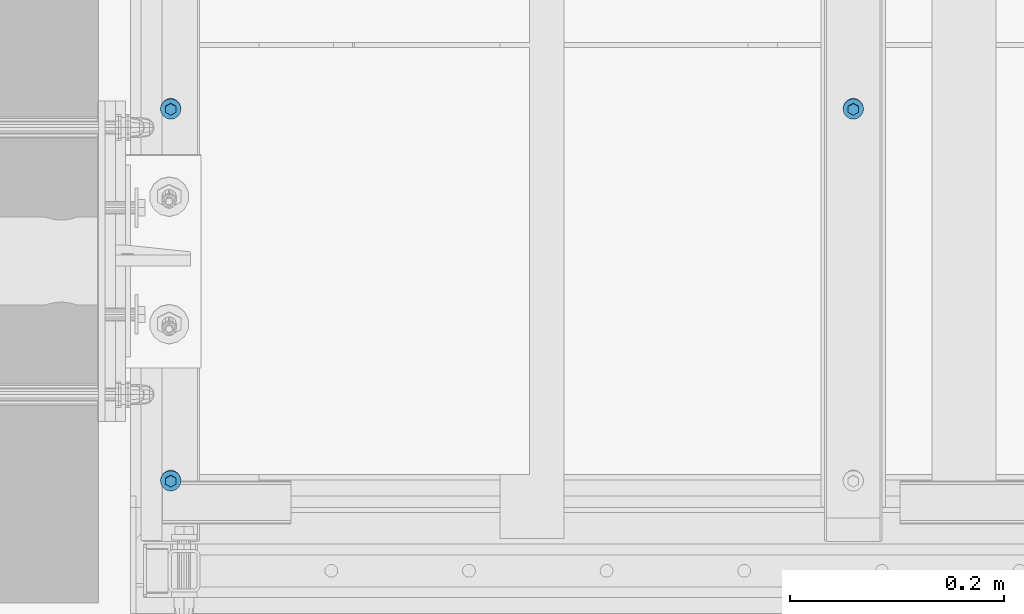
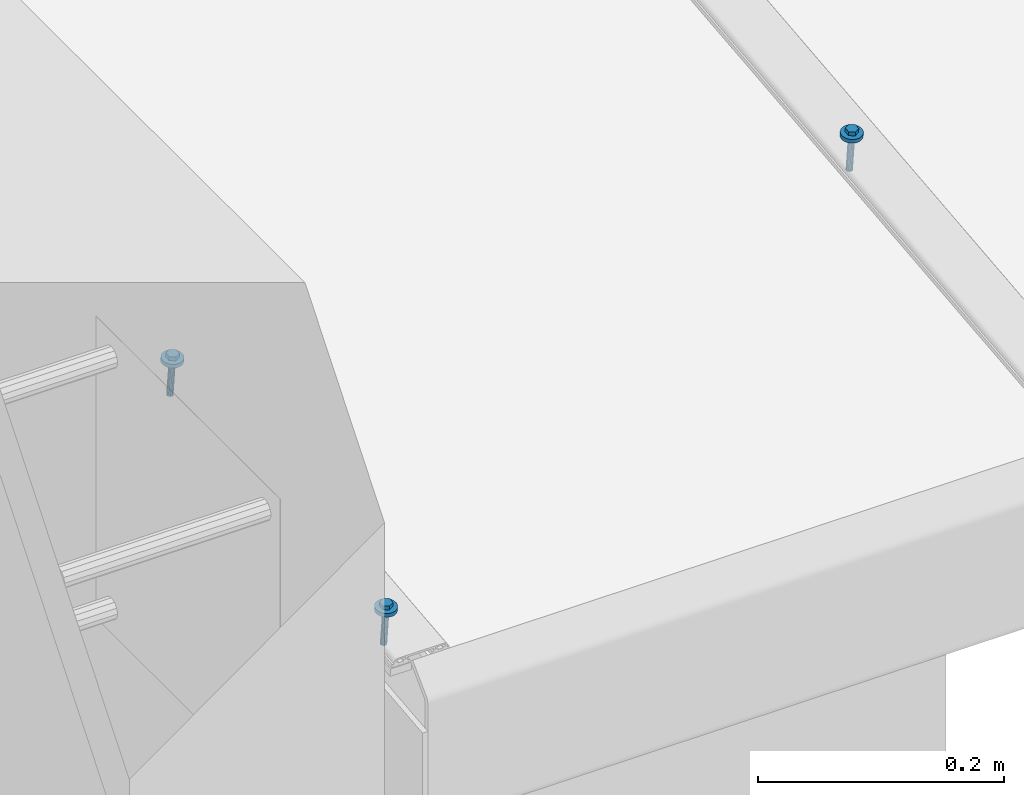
# One storey, part 69 of 162: 3 mechanical fasteners.
"""IFC2X3 building model written with IfcOpenShell, lengths in millimetres."""

import ifcopenshell
import ifcopenshell.guid

model = None  # the IFC model being written
_history = None  # IfcOwnerHistory: only IFC2X3 demands one
_inside = {}  # id of a spatial element -> (the spatial element, [elements in it])
_under = {}  # id of a project, library or spatial element -> (it, [spatial elements below it])
_declared = {}  # id of a project -> (the project, [libraries it declares])
_typed = {}  # id of a type object -> (the type object, [elements of that type])
_made_of = {}  # id of a material, layer set ... -> (it, [elements and type objects made of it])


def new_model(schema):
    """Start an empty IFC model of exactly this schema.

    Asked for "IFC4X3", IfcOpenShell would pick the latest addendum, in which some entities
    have other attributes; the version numbers below select the first issue.
    IFC2X3 requires an IfcOwnerHistory on every rooted entity: one is made here for all.
    """
    global model, _history
    if schema == "IFC4X3":
        model = ifcopenshell.file(schema_version=(4, 3, 0, 0))
    else:
        model = ifcopenshell.file(schema=schema)
    _inside.clear()
    _under.clear()
    _declared.clear()
    _typed.clear()
    _made_of.clear()
    _history = None
    if model.schema == "IFC2X3":
        org = make("IfcOrganization", Name="unknown")
        user = make(
            "IfcPersonAndOrganization",
            ThePerson=make("IfcPerson", FamilyName="unknown"),
            TheOrganization=org,
        )
        app = make(
            "IfcApplication",
            ApplicationDeveloper=org,
            Version="unknown",
            ApplicationFullName="unknown",
            ApplicationIdentifier="unknown",
        )
        _history = make(
            "IfcOwnerHistory",
            OwningUser=user,
            OwningApplication=app,
            ChangeAction="ADDED",
            CreationDate=0,
        )
    return model


def make(cls, **values):
    """One entity of the class cls with the attributes given. An attribute that is None is left unset."""
    return model.create_entity(
        cls, **{name: value for name, value in values.items() if value is not None}
    )


def entity(cls, *values):
    """Any entity or typed value of the class cls, its attributes in the order of the schema. None: left unset."""
    e = model.create_entity(cls)
    for i, value in enumerate(values):
        if value is not None:
            e[i] = value
    return e


def rooted(cls, **values):
    """An entity with a GlobalId (a new one), such as an element, a storey or a relation."""
    return make(cls, GlobalId=ifcopenshell.guid.new(), OwnerHistory=_history, **values)


def si_unit(unit_type, name, prefix=None):
    """IfcSIUnit, for example si_unit("LENGTHUNIT", "METRE", prefix="MILLI")."""
    return make("IfcSIUnit", UnitType=unit_type, Prefix=prefix, Name=name)


def converted_unit(unit_type, name, factor, base, dimensions=None, offset=None):
    """IfcConversionBasedUnit, such as the inch: factor (a typed value) times the base unit."""
    return make(
        "IfcConversionBasedUnit"
        if offset is None
        else "IfcConversionBasedUnitWithOffset",
        ConversionOffset=offset,
        Dimensions=None
        if dimensions is None
        else entity("IfcDimensionalExponents", *dimensions),
        UnitType=unit_type,
        Name=name,
        ConversionFactor=make(
            "IfcMeasureWithUnit", ValueComponent=factor, UnitComponent=base
        ),
    )


def assignment(units):
    """IfcUnitAssignment: the units of a project."""
    return None if units is None else make("IfcUnitAssignment", Units=units)


def point(xyz):
    """IfcCartesianPoint."""
    return None if xyz is None else make("IfcCartesianPoint", Coordinates=xyz)


def direction(xyz):
    """IfcDirection."""
    return None if xyz is None else make("IfcDirection", DirectionRatios=xyz)


def frame(location, z_axis=None, x_axis=None):
    """IfcAxis2Placement3D, a coordinate frame: its origin and axes. An axis left out is left unset."""
    return make(
        "IfcAxis2Placement3D",
        Location=point(location),
        Axis=direction(z_axis),
        RefDirection=direction(x_axis),
    )


def origin_with_axes():
    """The frame at (0, 0, 0) with the z axis (0, 0, 1) and the x axis (1, 0, 0) written out."""
    return frame((0.0, 0.0, 0.0), z_axis=(0.0, 0.0, 1.0), x_axis=(1.0, 0.0, 0.0))


def place(relative_to, where):
    """IfcLocalPlacement: puts the frame where relative to a parent placement (None: the world)."""
    return make(
        "IfcLocalPlacement", PlacementRelTo=relative_to, RelativePlacement=where
    )


def context(
    kind, dimensions, precision=None, world=None, true_north=None, identifier=None
):
    """IfcGeometricRepresentationContext, for example the 3D "Model" context."""
    return make(
        "IfcGeometricRepresentationContext",
        ContextIdentifier=identifier,
        ContextType=kind,
        CoordinateSpaceDimension=dimensions,
        Precision=precision,
        WorldCoordinateSystem=world,
        TrueNorth=true_north,
    )


def project(units=None, contexts=None):
    """IfcProject with its units and contexts."""
    return rooted(
        "IfcProject",
        Name="project",
        RepresentationContexts=contexts,
        UnitsInContext=assignment(units),
    )


def spatial(cls, under=None, at=None, **own):
    """A site, building, storey or space (cls), placed at a placement, below another one or the project."""
    s = rooted(cls, ObjectPlacement=at, **own)
    if under is not None:
        _under.setdefault(under.id(), (under, []))[1].append(s)
    return s


def faces_of(points, faces, orient=None, outer=None):
    """IfcFace entities. A face is a list of loops; a loop is a list of indices into points, from 0.

    orient and outer hold one flag for each loop. By default every Orientation is true, the
    first loop of a face is its IfcFaceOuterBound and the others are IfcFaceBound.
    """
    made = []
    for i, loops in enumerate(faces):
        bounds = []
        for j, loop in enumerate(loops):
            is_outer = j == 0 if outer is None else outer[i][j]
            bounds.append(
                make(
                    "IfcFaceOuterBound" if is_outer else "IfcFaceBound",
                    Bound=make("IfcPolyLoop", Polygon=[points[k] for k in loop]),
                    Orientation=True if orient is None else orient[i][j],
                )
            )
        made.append(make("IfcFace", Bounds=bounds))
    return made


def faceted_brep(points, faces, orient=None, outer=None, voids=None):
    """IfcFacetedBrep: a solid bounded by flat faces; with voids (closed shells), ...WithVoids."""
    shared = [point(p) for p in points]
    hull = make("IfcClosedShell", CfsFaces=faces_of(shared, faces, orient, outer))
    if voids is None:
        return make("IfcFacetedBrep", Outer=hull)
    return make(
        "IfcFacetedBrepWithVoids",
        Outer=hull,
        Voids=[
            make(cls, CfsFaces=faces_of(shared, fs, o, b)) for cls, fs, o, b in voids
        ],
    )


def shape(context_of_items, identifier, shape_type, items):
    """IfcShapeRepresentation: the items that make up one representation, for example the "Body"."""
    return make(
        "IfcShapeRepresentation",
        ContextOfItems=context_of_items,
        RepresentationIdentifier=identifier,
        RepresentationType=shape_type,
        Items=items,
    )


def made_of(thing, what):
    """Note that an element or type object is made of a material, layer set ...; save() writes the relation."""
    if what is not None:
        _made_of.setdefault(what.id(), (what, []))[1].append(thing)
    return thing


def element(
    cls,
    number,
    at=None,
    inside=None,
    cuts=None,
    type_object=None,
    material=None,
    context=None,
    identifier="Body",
    shape_type=None,
    held_by="IfcProductDefinitionShape",
    body=None,
    shapes=None,
    **own,
):
    """One element of the class cls, such as IfcWall. Its Tag is "e" and its number.

    at: its placement. inside: the storey or other place that contains it. cuts: it is an
    opening in that element (IfcRelVoidsElement). A single representation is given by context,
    identifier, shape_type and body (its items); several are given by shapes. held_by: the class
    of the entity that holds the representations. save() writes the other relations.
    """
    e = rooted(cls, Tag="e%d" % number, ObjectPlacement=at, **own)
    if body is not None:
        shapes = [shape(context, identifier, shape_type, body)]
    if shapes is not None:
        e.Representation = make(held_by, Representations=shapes)
    if inside is not None:
        _inside.setdefault(inside.id(), (inside, []))[1].append(e)
    if cuts is not None:
        rooted(
            "IfcRelVoidsElement", RelatingBuildingElement=cuts, RelatedOpeningElement=e
        )
    if type_object is not None:
        _typed.setdefault(type_object.id(), (type_object, []))[1].append(e)
    return made_of(e, material)


def aggregate(whole, parts):
    """IfcRelAggregates: a whole, such as a stair, and the parts it consists of."""
    return rooted("IfcRelAggregates", RelatingObject=whole, RelatedObjects=parts)


def save(model, path):
    """Write the relations noted so far, then the file.

    IfcRelAggregates (storeys below a building ...), IfcRelContainedInSpatialStructure (elements
    in a storey), IfcRelDefinesByType, IfcRelAssociatesMaterial and IfcRelDeclares: one each for
    every whole, place, type object, material and project.
    """
    for whole, parts in _under.values():
        aggregate(whole, parts)
    for where, things in _inside.values():
        rooted(
            "IfcRelContainedInSpatialStructure",
            RelatedElements=things,
            RelatingStructure=where,
        )
    for kind, things in _typed.values():
        rooted("IfcRelDefinesByType", RelatedObjects=things, RelatingType=kind)
    for what, things in _made_of.values():
        rooted("IfcRelAssociatesMaterial", RelatedObjects=things, RelatingMaterial=what)
    for by, libraries in _declared.values():
        rooted("IfcRelDeclares", RelatingContext=by, RelatedDefinitions=libraries)
    model.write(path)


model = new_model("IFC2X3")

# Units and contexts
model_context = context("Model", 3, precision=1e-09, world=origin_with_axes())
ifc_project = project(units=[si_unit("LENGTHUNIT", "METRE", prefix="MILLI"), si_unit("AREAUNIT", "SQUARE_METRE"), si_unit("VOLUMEUNIT", "CUBIC_METRE"), converted_unit("PLANEANGLEUNIT", "DEGREE", entity("IfcPlaneAngleMeasure", 0.01745329), si_unit("PLANEANGLEUNIT", "RADIAN"), dimensions=[0, 0, 0, 0, 0, 0, 0])], contexts=[model_context])

# Site, building, storey
site_placement = place(None, origin_with_axes())
site = spatial("IfcSite", under=ifc_project, at=site_placement, Name="Hermannstra?e 1a, 60318 Frankfurt", CompositionType="ELEMENT")
building_placement = place(site_placement, origin_with_axes())
building = spatial("IfcBuilding", under=site, at=building_placement, Name="Struktur 1", CompositionType="ELEMENT")
storey_placement = place(building_placement, origin_with_axes())
storey = spatial("IfcBuildingStorey", under=building, at=storey_placement, Name="Default Storey", CompositionType="ELEMENT", Elevation=0.0)

# Mechanical fasteners
mechanical_fastener_1_placement = place(None, origin_with_axes())
element("IfcMechanicalFastener", 1, at=mechanical_fastener_1_placement, inside=storey, ObjectType="-", NominalDiameter=6.0, NominalLength=40.0, context=model_context, shape_type="Brep", body=[
    faceted_brep([(3220.309364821, 1947.952940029, 17450.481034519), (3220.309364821, 1948.371053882, 17446.502946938), (3220.491904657, 1946.527848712, 17446.309218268), (3220.491904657, 1946.109734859, 17450.28730585), (3221.032509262, 1944.755476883, 17446.122934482), (3221.032509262, 1944.33736303, 17450.101022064), (3221.910403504, 1943.122049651, 17445.951254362), (3221.910403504, 1942.703935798, 17449.929341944), (3223.0918504, 1941.690338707, 17445.800775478), (3223.0918504, 1941.272224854, 17449.77886306), (3224.531447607, 1940.515363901, 17445.67728065), (3224.531447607, 1940.097250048, 17449.655368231), (3226.173872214, 1939.642278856, 17445.585515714), (3226.173872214, 1939.224165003, 17449.563603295), (3227.956006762, 1939.10463574, 17445.529007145), (3227.956006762, 1938.686521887, 17449.507094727), (3229.809364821, 1938.923095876, 17445.509926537), (3229.809364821, 1938.504982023, 17449.488014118), (3231.66272288, 1939.10463574, 17445.529007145), (3231.66272288, 1938.686521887, 17449.507094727), (3233.444857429, 1939.642278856, 17445.585515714), (3233.444857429, 1939.224165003, 17449.563603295), (3235.087282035, 1940.515363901, 17445.67728065), (3235.087282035, 1940.097250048, 17449.655368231), (3236.526879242, 1941.690338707, 17445.800775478), (3236.526879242, 1941.272224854, 17449.77886306), (3237.708326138, 1943.122049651, 17445.951254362), (3237.708326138, 1942.703935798, 17449.929341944), (3238.58622038, 1944.755476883, 17446.122934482), (3238.58622038, 1944.33736303, 17450.101022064), (3239.126824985, 1946.527848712, 17446.309218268), (3239.126824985, 1946.109734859, 17450.28730585), (3239.309364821, 1948.371053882, 17446.502946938), (3239.309364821, 1947.952940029, 17450.481034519), (3239.126824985, 1950.214259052, 17446.696675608), (3239.126824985, 1949.796145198, 17450.674763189), (3238.58622038, 1951.98663088, 17446.882959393), (3238.58622038, 1951.568517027, 17450.861046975), (3237.708326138, 1953.620058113, 17447.054639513), (3237.708326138, 1953.20194426, 17451.032727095), (3236.526879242, 1955.051769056, 17447.205118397), (3236.526879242, 1954.633655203, 17451.183205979), (3235.087282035, 1956.226743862, 17447.328613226), (3235.087282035, 1955.808630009, 17451.306700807), (3233.444857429, 1957.099828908, 17447.420378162), (3233.444857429, 1956.681715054, 17451.398465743), (3231.66272288, 1957.637472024, 17447.47688673), (3231.66272288, 1957.219358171, 17451.454974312), (3229.809364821, 1957.819011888, 17447.495967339), (3229.809364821, 1957.400898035, 17451.47405492), (3227.956006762, 1957.637472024, 17447.47688673), (3227.956006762, 1957.219358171, 17451.454974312), (3226.173872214, 1957.099828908, 17447.420378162), (3226.173872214, 1956.681715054, 17451.398465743), (3224.531447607, 1956.226743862, 17447.328613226), (3224.531447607, 1955.808630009, 17451.306700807), (3223.0918504, 1955.051769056, 17447.205118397), (3223.0918504, 1954.633655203, 17451.183205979), (3221.910403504, 1953.620058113, 17447.054639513), (3221.910403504, 1953.20194426, 17451.032727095), (3221.032509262, 1951.98663088, 17446.882959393), (3221.032509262, 1951.568517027, 17450.861046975), (3220.491904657, 1950.214259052, 17446.696675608), (3220.491904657, 1949.796145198, 17450.674763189)], [[[0, 1, 2, 3]], [[3, 2, 4, 5]], [[5, 4, 6, 7]], [[7, 6, 8, 9]], [[9, 8, 10, 11]], [[11, 10, 12, 13]], [[13, 12, 14, 15]], [[15, 14, 16, 17]], [[17, 16, 18, 19]], [[19, 18, 20, 21]], [[21, 20, 22, 23]], [[23, 22, 24, 25]], [[25, 24, 26, 27]], [[27, 26, 28, 29]], [[29, 28, 30, 31]], [[31, 30, 32, 33]], [[33, 32, 34, 35]], [[35, 34, 36, 37]], [[37, 36, 38, 39]], [[39, 38, 40, 41]], [[41, 40, 42, 43]], [[43, 42, 44, 45]], [[45, 44, 46, 47]], [[47, 46, 48, 49]], [[49, 48, 50, 51]], [[51, 50, 52, 53]], [[53, 52, 54, 55]], [[55, 54, 56, 57]], [[57, 56, 58, 59]], [[59, 58, 60, 61]], [[61, 60, 62, 63]], [[63, 62, 1, 0]], [[0, 3, 5, 7, 9, 11, 13, 15, 17, 19, 21, 23, 25, 27, 29, 31, 33, 35, 37, 39, 41, 43, 45, 47, 49, 51, 53, 55, 57, 59, 61, 63]], [[1, 62, 60, 58, 56, 54, 52, 50, 48, 46, 44, 42, 40, 38, 36, 34, 32, 30, 28, 26, 24, 22, 20, 18, 16, 14, 12, 10, 8, 6, 4, 2]]]),
    faceted_brep([(3234.594155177, 1945.205573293, 17450.19227464), (3234.594155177, 1944.78745944, 17454.170362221), (3229.809364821, 1942.040092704, 17453.881602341), (3229.809364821, 1942.458206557, 17449.90351476), (3225.024574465, 1944.78745944, 17454.170362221), (3225.024574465, 1945.205573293, 17450.19227464), (3225.024574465, 1950.282192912, 17454.747881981), (3225.024574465, 1950.700306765, 17450.769794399), (3229.809364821, 1953.029559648, 17455.03664186), (3229.809364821, 1953.447673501, 17451.058554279), (3234.594155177, 1950.282192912, 17454.747881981), (3234.594155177, 1950.700306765, 17450.769794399)], [[[0, 1, 2, 3]], [[3, 2, 4, 5]], [[5, 4, 6, 7]], [[7, 6, 8, 9]], [[9, 8, 10, 11]], [[11, 10, 1, 0]], [[4, 2, 1, 10, 8, 6]], [[0, 3, 5, 7, 9, 11]]]),
    faceted_brep([(3226.809364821, 1948.371053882, 17446.502946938), (3226.809364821, 1951.715964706, 17414.678246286), (3227.037726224, 1950.574203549, 17414.558242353), (3227.037726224, 1947.229292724, 17446.382943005), (3227.688044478, 1949.606265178, 17414.45650793), (3227.688044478, 1946.261354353, 17446.281208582), (3228.661314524, 1948.959509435, 17414.388531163), (3228.661314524, 1945.61459861, 17446.213231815), (3229.809364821, 1948.73239902, 17414.364660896), (3229.809364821, 1945.387488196, 17446.189361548), (3230.957415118, 1948.959509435, 17414.388531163), (3230.957415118, 1945.61459861, 17446.213231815), (3231.930685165, 1949.606265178, 17414.45650793), (3231.930685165, 1946.261354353, 17446.281208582), (3232.581003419, 1950.574203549, 17414.558242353), (3232.581003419, 1947.229292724, 17446.382943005), (3232.809364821, 1951.715964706, 17414.678246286), (3232.809364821, 1948.371053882, 17446.502946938), (3232.581003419, 1952.857725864, 17414.798250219), (3232.581003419, 1949.512815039, 17446.622950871), (3231.930685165, 1953.825664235, 17414.899984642), (3231.930685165, 1950.480753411, 17446.724685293), (3230.957415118, 1954.472419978, 17414.967961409), (3230.957415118, 1951.127509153, 17446.792662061), (3229.809364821, 1954.699530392, 17414.991831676), (3229.809364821, 1951.354619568, 17446.816532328), (3228.661314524, 1954.472419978, 17414.967961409), (3228.661314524, 1951.127509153, 17446.792662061), (3227.688044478, 1953.825664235, 17414.899984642), (3227.688044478, 1950.480753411, 17446.724685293), (3227.037726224, 1952.857725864, 17414.798250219), (3227.037726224, 1949.512815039, 17446.622950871)], [[[0, 1, 2, 3]], [[3, 2, 4, 5]], [[5, 4, 6, 7]], [[7, 6, 8, 9]], [[9, 8, 10, 11]], [[11, 10, 12, 13]], [[13, 12, 14, 15]], [[15, 14, 16, 17]], [[17, 16, 18, 19]], [[19, 18, 20, 21]], [[21, 20, 22, 23]], [[23, 22, 24, 25]], [[25, 24, 26, 27]], [[27, 26, 28, 29]], [[29, 28, 30, 31]], [[31, 30, 1, 0]], [[0, 3, 5, 7, 9, 11, 13, 15, 17, 19, 21, 23, 25, 27, 29, 31]], [[1, 30, 28, 26, 24, 22, 20, 18, 16, 14, 12, 10, 8, 6, 4, 2]]]),
    faceted_brep([(3226.809364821, 1951.715964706, 17414.678246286), (3226.809364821, 1952.134078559, 17410.700158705), (3227.037726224, 1950.992317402, 17410.580154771), (3227.037726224, 1950.574203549, 17414.558242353), (3227.688044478, 1950.024379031, 17410.478420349), (3227.688044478, 1949.606265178, 17414.45650793), (3228.661314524, 1949.377623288, 17410.410443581), (3228.661314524, 1948.959509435, 17414.388531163), (3229.809364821, 1949.150512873, 17410.386573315), (3229.809364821, 1948.73239902, 17414.364660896), (3230.957415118, 1949.377623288, 17410.410443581), (3230.957415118, 1948.959509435, 17414.388531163), (3231.930685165, 1950.024379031, 17410.478420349), (3231.930685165, 1949.606265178, 17414.45650793), (3232.581003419, 1950.992317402, 17410.580154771), (3232.581003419, 1950.574203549, 17414.558242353), (3232.809364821, 1952.134078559, 17410.700158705), (3232.809364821, 1951.715964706, 17414.678246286), (3232.581003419, 1953.275839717, 17410.820162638), (3232.581003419, 1952.857725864, 17414.798250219), (3231.930685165, 1954.243778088, 17410.92189706), (3231.930685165, 1953.825664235, 17414.899984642), (3230.957415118, 1954.890533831, 17410.989873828), (3230.957415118, 1954.472419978, 17414.967961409), (3229.809364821, 1955.117644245, 17411.013744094), (3229.809364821, 1954.699530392, 17414.991831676), (3228.661314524, 1954.890533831, 17410.989873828), (3228.661314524, 1954.472419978, 17414.967961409), (3227.688044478, 1954.243778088, 17410.92189706), (3227.688044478, 1953.825664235, 17414.899984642), (3227.037726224, 1953.275839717, 17410.820162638), (3227.037726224, 1952.857725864, 17414.798250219)], [[[0, 1, 2, 3]], [[3, 2, 4, 5]], [[5, 4, 6, 7]], [[7, 6, 8, 9]], [[9, 8, 10, 11]], [[11, 10, 12, 13]], [[13, 12, 14, 15]], [[15, 14, 16, 17]], [[17, 16, 18, 19]], [[19, 18, 20, 21]], [[21, 20, 22, 23]], [[23, 22, 24, 25]], [[25, 24, 26, 27]], [[27, 26, 28, 29]], [[29, 28, 30, 31]], [[31, 30, 1, 0]], [[0, 3, 5, 7, 9, 11, 13, 15, 17, 19, 21, 23, 25, 27, 29, 31]], [[1, 30, 28, 26, 24, 22, 20, 18, 16, 14, 12, 10, 8, 6, 4, 2]]]),
])
mechanical_fastener_2_placement = place(None, origin_with_axes())
element("IfcMechanicalFastener", 2, at=mechanical_fastener_2_placement, inside=storey, ObjectType="-", NominalDiameter=6.0, NominalLength=40.0, context=model_context, shape_type="Brep", body=[
    faceted_brep([(2600.309364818, 1948.371053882, 17446.502946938), (2600.309364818, 1947.952940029, 17450.481034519), (2600.126824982, 1946.109734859, 17450.28730585), (2600.126824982, 1946.527848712, 17446.309218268), (2599.586220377, 1944.33736303, 17450.101022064), (2599.586220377, 1944.755476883, 17446.122934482), (2598.708326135, 1942.703935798, 17449.929341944), (2598.708326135, 1943.122049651, 17445.951254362), (2597.526879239, 1941.272224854, 17449.77886306), (2597.526879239, 1941.690338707, 17445.800775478), (2596.087282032, 1940.097250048, 17449.655368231), (2596.087282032, 1940.515363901, 17445.67728065), (2594.444857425, 1939.224165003, 17449.563603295), (2594.444857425, 1939.642278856, 17445.585515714), (2592.662722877, 1938.686521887, 17449.507094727), (2592.662722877, 1939.10463574, 17445.529007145), (2590.809364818, 1938.504982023, 17449.488014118), (2590.809364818, 1938.923095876, 17445.509926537), (2588.956006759, 1938.686521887, 17449.507094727), (2588.956006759, 1939.10463574, 17445.529007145), (2587.17387221, 1939.224165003, 17449.563603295), (2587.17387221, 1939.642278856, 17445.585515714), (2585.531447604, 1940.097250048, 17449.655368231), (2585.531447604, 1940.515363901, 17445.67728065), (2584.091850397, 1941.272224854, 17449.77886306), (2584.091850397, 1941.690338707, 17445.800775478), (2582.910403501, 1942.703935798, 17449.929341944), (2582.910403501, 1943.122049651, 17445.951254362), (2582.032509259, 1944.33736303, 17450.101022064), (2582.032509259, 1944.755476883, 17446.122934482), (2581.491904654, 1946.109734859, 17450.28730585), (2581.491904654, 1946.527848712, 17446.309218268), (2581.309364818, 1947.952940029, 17450.481034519), (2581.309364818, 1948.371053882, 17446.502946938), (2581.491904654, 1949.796145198, 17450.674763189), (2581.491904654, 1950.214259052, 17446.696675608), (2582.032509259, 1951.568517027, 17450.861046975), (2582.032509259, 1951.98663088, 17446.882959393), (2582.910403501, 1953.20194426, 17451.032727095), (2582.910403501, 1953.620058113, 17447.054639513), (2584.091850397, 1954.633655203, 17451.183205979), (2584.091850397, 1955.051769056, 17447.205118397), (2585.531447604, 1955.808630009, 17451.306700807), (2585.531447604, 1956.226743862, 17447.328613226), (2587.17387221, 1956.681715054, 17451.398465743), (2587.17387221, 1957.099828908, 17447.420378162), (2588.956006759, 1957.219358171, 17451.454974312), (2588.956006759, 1957.637472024, 17447.47688673), (2590.809364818, 1957.400898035, 17451.47405492), (2590.809364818, 1957.819011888, 17447.495967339), (2592.662722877, 1957.219358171, 17451.454974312), (2592.662722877, 1957.637472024, 17447.47688673), (2594.444857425, 1956.681715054, 17451.398465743), (2594.444857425, 1957.099828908, 17447.420378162), (2596.087282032, 1955.808630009, 17451.306700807), (2596.087282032, 1956.226743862, 17447.328613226), (2597.526879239, 1954.633655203, 17451.183205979), (2597.526879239, 1955.051769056, 17447.205118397), (2598.708326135, 1953.20194426, 17451.032727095), (2598.708326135, 1953.620058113, 17447.054639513), (2599.586220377, 1951.568517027, 17450.861046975), (2599.586220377, 1951.98663088, 17446.882959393), (2600.126824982, 1949.796145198, 17450.674763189), (2600.126824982, 1950.214259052, 17446.696675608)], [[[0, 1, 2, 3]], [[3, 2, 4, 5]], [[5, 4, 6, 7]], [[7, 6, 8, 9]], [[9, 8, 10, 11]], [[11, 10, 12, 13]], [[13, 12, 14, 15]], [[15, 14, 16, 17]], [[17, 16, 18, 19]], [[19, 18, 20, 21]], [[21, 20, 22, 23]], [[23, 22, 24, 25]], [[25, 24, 26, 27]], [[27, 26, 28, 29]], [[29, 28, 30, 31]], [[31, 30, 32, 33]], [[33, 32, 34, 35]], [[35, 34, 36, 37]], [[37, 36, 38, 39]], [[39, 38, 40, 41]], [[41, 40, 42, 43]], [[43, 42, 44, 45]], [[45, 44, 46, 47]], [[47, 46, 48, 49]], [[49, 48, 50, 51]], [[51, 50, 52, 53]], [[53, 52, 54, 55]], [[55, 54, 56, 57]], [[57, 56, 58, 59]], [[59, 58, 60, 61]], [[61, 60, 62, 63]], [[63, 62, 1, 0]], [[2, 1, 62, 60, 58, 56, 54, 52, 50, 48, 46, 44, 42, 40, 38, 36, 34, 32, 30, 28, 26, 24, 22, 20, 18, 16, 14, 12, 10, 8, 6, 4]], [[63, 0, 3, 5, 7, 9, 11, 13, 15, 17, 19, 21, 23, 25, 27, 29, 31, 33, 35, 37, 39, 41, 43, 45, 47, 49, 51, 53, 55, 57, 59, 61]]]),
    faceted_brep([(2586.024574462, 1944.78745944, 17454.170362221), (2586.024574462, 1945.205573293, 17450.19227464), (2590.809364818, 1942.458206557, 17449.90351476), (2590.809364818, 1942.040092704, 17453.881602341), (2595.594155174, 1945.205573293, 17450.19227464), (2595.594155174, 1944.78745944, 17454.170362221), (2595.594155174, 1950.700306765, 17450.769794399), (2595.594155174, 1950.282192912, 17454.747881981), (2590.809364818, 1953.447673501, 17451.058554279), (2590.809364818, 1953.029559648, 17455.03664186), (2586.024574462, 1950.700306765, 17450.769794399), (2586.024574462, 1950.282192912, 17454.747881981)], [[[0, 1, 2, 3]], [[3, 2, 4, 5]], [[5, 4, 6, 7]], [[7, 6, 8, 9]], [[9, 8, 10, 11]], [[11, 10, 1, 0]], [[3, 5, 7, 9, 11, 0]], [[2, 1, 10, 8, 6, 4]]]),
    faceted_brep([(2593.809364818, 1951.715964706, 17414.678246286), (2593.809364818, 1948.371053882, 17446.502946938), (2593.581003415, 1947.229292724, 17446.382943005), (2593.581003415, 1950.574203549, 17414.558242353), (2592.930685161, 1946.261354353, 17446.281208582), (2592.930685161, 1949.606265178, 17414.45650793), (2591.957415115, 1945.61459861, 17446.213231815), (2591.957415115, 1948.959509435, 17414.388531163), (2590.809364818, 1945.387488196, 17446.189361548), (2590.809364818, 1948.73239902, 17414.364660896), (2589.661314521, 1945.61459861, 17446.213231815), (2589.661314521, 1948.959509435, 17414.388531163), (2588.688044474, 1946.261354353, 17446.281208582), (2588.688044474, 1949.606265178, 17414.45650793), (2588.03772622, 1947.229292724, 17446.382943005), (2588.03772622, 1950.574203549, 17414.558242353), (2587.809364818, 1948.371053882, 17446.502946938), (2587.809364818, 1951.715964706, 17414.678246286), (2588.03772622, 1949.512815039, 17446.622950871), (2588.03772622, 1952.857725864, 17414.798250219), (2588.688044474, 1950.480753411, 17446.724685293), (2588.688044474, 1953.825664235, 17414.899984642), (2589.661314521, 1951.127509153, 17446.792662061), (2589.661314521, 1954.472419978, 17414.967961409), (2590.809364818, 1951.354619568, 17446.816532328), (2590.809364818, 1954.699530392, 17414.991831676), (2591.957415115, 1951.127509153, 17446.792662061), (2591.957415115, 1954.472419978, 17414.967961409), (2592.930685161, 1950.480753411, 17446.724685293), (2592.930685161, 1953.825664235, 17414.899984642), (2593.581003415, 1949.512815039, 17446.622950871), (2593.581003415, 1952.857725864, 17414.798250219)], [[[0, 1, 2, 3]], [[3, 2, 4, 5]], [[5, 4, 6, 7]], [[7, 6, 8, 9]], [[9, 8, 10, 11]], [[11, 10, 12, 13]], [[13, 12, 14, 15]], [[15, 14, 16, 17]], [[17, 16, 18, 19]], [[19, 18, 20, 21]], [[21, 20, 22, 23]], [[23, 22, 24, 25]], [[25, 24, 26, 27]], [[27, 26, 28, 29]], [[29, 28, 30, 31]], [[31, 30, 1, 0]], [[2, 1, 30, 28, 26, 24, 22, 20, 18, 16, 14, 12, 10, 8, 6, 4]], [[31, 0, 3, 5, 7, 9, 11, 13, 15, 17, 19, 21, 23, 25, 27, 29]]]),
    faceted_brep([(2593.809364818, 1952.134078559, 17410.700158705), (2593.809364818, 1951.715964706, 17414.678246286), (2593.581003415, 1950.574203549, 17414.558242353), (2593.581003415, 1950.992317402, 17410.580154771), (2592.930685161, 1949.606265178, 17414.45650793), (2592.930685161, 1950.024379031, 17410.478420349), (2591.957415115, 1948.959509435, 17414.388531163), (2591.957415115, 1949.377623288, 17410.410443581), (2590.809364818, 1948.73239902, 17414.364660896), (2590.809364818, 1949.150512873, 17410.386573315), (2589.661314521, 1948.959509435, 17414.388531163), (2589.661314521, 1949.377623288, 17410.410443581), (2588.688044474, 1949.606265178, 17414.45650793), (2588.688044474, 1950.024379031, 17410.478420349), (2588.03772622, 1950.574203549, 17414.558242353), (2588.03772622, 1950.992317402, 17410.580154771), (2587.809364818, 1951.715964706, 17414.678246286), (2587.809364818, 1952.134078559, 17410.700158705), (2588.03772622, 1952.857725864, 17414.798250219), (2588.03772622, 1953.275839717, 17410.820162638), (2588.688044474, 1953.825664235, 17414.899984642), (2588.688044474, 1954.243778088, 17410.92189706), (2589.661314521, 1954.472419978, 17414.967961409), (2589.661314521, 1954.890533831, 17410.989873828), (2590.809364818, 1954.699530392, 17414.991831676), (2590.809364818, 1955.117644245, 17411.013744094), (2591.957415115, 1954.472419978, 17414.967961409), (2591.957415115, 1954.890533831, 17410.989873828), (2592.930685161, 1953.825664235, 17414.899984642), (2592.930685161, 1954.243778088, 17410.92189706), (2593.581003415, 1952.857725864, 17414.798250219), (2593.581003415, 1953.275839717, 17410.820162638)], [[[0, 1, 2, 3]], [[3, 2, 4, 5]], [[5, 4, 6, 7]], [[7, 6, 8, 9]], [[9, 8, 10, 11]], [[11, 10, 12, 13]], [[13, 12, 14, 15]], [[15, 14, 16, 17]], [[17, 16, 18, 19]], [[19, 18, 20, 21]], [[21, 20, 22, 23]], [[23, 22, 24, 25]], [[25, 24, 26, 27]], [[27, 26, 28, 29]], [[29, 28, 30, 31]], [[31, 30, 1, 0]], [[2, 1, 30, 28, 26, 24, 22, 20, 18, 16, 14, 12, 10, 8, 6, 4]], [[31, 0, 3, 5, 7, 9, 11, 13, 15, 17, 19, 21, 23, 25, 27, 29]]]),
])
mechanical_fastener_3_placement = place(None, origin_with_axes())
element("IfcMechanicalFastener", 3, at=mechanical_fastener_3_placement, inside=storey, ObjectType="-", NominalDiameter=6.0, NominalLength=40.0, context=model_context, shape_type="Brep", body=[
    faceted_brep([(2600.309364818, 1600.288390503, 17409.917984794), (2600.309364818, 1599.87027665, 17413.896072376), (2600.126824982, 1598.02707148, 17413.702343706), (2600.126824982, 1598.445185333, 17409.724256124), (2599.586220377, 1596.254699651, 17413.51605992), (2599.586220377, 1596.672813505, 17409.537972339), (2598.708326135, 1594.621272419, 17413.3443798), (2598.708326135, 1595.039386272, 17409.366292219), (2597.526879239, 1593.189561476, 17413.193900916), (2597.526879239, 1593.607675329, 17409.215813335), (2596.087282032, 1592.01458667, 17413.070406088), (2596.087282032, 1592.432700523, 17409.092318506), (2594.444857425, 1591.141501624, 17412.978641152), (2594.444857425, 1591.559615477, 17409.00055357), (2592.662722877, 1590.603858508, 17412.922132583), (2592.662722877, 1591.021972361, 17408.944045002), (2590.809364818, 1590.422318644, 17412.903051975), (2590.809364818, 1590.840432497, 17408.924964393), (2588.956006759, 1590.603858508, 17412.922132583), (2588.956006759, 1591.021972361, 17408.944045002), (2587.17387221, 1591.141501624, 17412.978641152), (2587.17387221, 1591.559615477, 17409.00055357), (2585.531447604, 1592.01458667, 17413.070406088), (2585.531447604, 1592.432700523, 17409.092318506), (2584.091850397, 1593.189561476, 17413.193900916), (2584.091850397, 1593.607675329, 17409.215813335), (2582.910403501, 1594.621272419, 17413.3443798), (2582.910403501, 1595.039386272, 17409.366292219), (2582.032509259, 1596.254699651, 17413.51605992), (2582.032509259, 1596.672813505, 17409.537972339), (2581.491904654, 1598.02707148, 17413.702343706), (2581.491904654, 1598.445185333, 17409.724256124), (2581.309364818, 1599.87027665, 17413.896072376), (2581.309364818, 1600.288390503, 17409.917984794), (2581.491904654, 1601.71348182, 17414.089801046), (2581.491904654, 1602.131595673, 17410.111713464), (2582.032509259, 1603.485853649, 17414.276084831), (2582.032509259, 1603.903967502, 17410.29799725), (2582.910403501, 1605.119280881, 17414.447764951), (2582.910403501, 1605.537394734, 17410.46967737), (2584.091850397, 1606.550991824, 17414.598243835), (2584.091850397, 1606.969105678, 17410.620156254), (2585.531447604, 1607.72596663, 17414.721738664), (2585.531447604, 1608.144080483, 17410.743651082), (2587.17387221, 1608.599051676, 17414.8135036), (2587.17387221, 1609.017165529, 17410.835416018), (2588.956006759, 1609.136694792, 17414.870012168), (2588.956006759, 1609.554808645, 17410.891924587), (2590.809364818, 1609.318234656, 17414.889092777), (2590.809364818, 1609.736348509, 17410.911005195), (2592.662722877, 1609.136694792, 17414.870012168), (2592.662722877, 1609.554808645, 17410.891924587), (2594.444857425, 1608.599051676, 17414.8135036), (2594.444857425, 1609.017165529, 17410.835416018), (2596.087282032, 1607.72596663, 17414.721738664), (2596.087282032, 1608.144080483, 17410.743651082), (2597.526879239, 1606.550991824, 17414.598243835), (2597.526879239, 1606.969105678, 17410.620156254), (2598.708326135, 1605.119280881, 17414.447764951), (2598.708326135, 1605.537394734, 17410.46967737), (2599.586220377, 1603.485853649, 17414.276084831), (2599.586220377, 1603.903967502, 17410.29799725), (2600.126824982, 1601.71348182, 17414.089801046), (2600.126824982, 1602.131595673, 17410.111713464)], [[[0, 1, 2, 3]], [[3, 2, 4, 5]], [[5, 4, 6, 7]], [[7, 6, 8, 9]], [[9, 8, 10, 11]], [[11, 10, 12, 13]], [[13, 12, 14, 15]], [[15, 14, 16, 17]], [[17, 16, 18, 19]], [[19, 18, 20, 21]], [[21, 20, 22, 23]], [[23, 22, 24, 25]], [[25, 24, 26, 27]], [[27, 26, 28, 29]], [[29, 28, 30, 31]], [[31, 30, 32, 33]], [[33, 32, 34, 35]], [[35, 34, 36, 37]], [[37, 36, 38, 39]], [[39, 38, 40, 41]], [[41, 40, 42, 43]], [[43, 42, 44, 45]], [[45, 44, 46, 47]], [[47, 46, 48, 49]], [[49, 48, 50, 51]], [[51, 50, 52, 53]], [[53, 52, 54, 55]], [[55, 54, 56, 57]], [[57, 56, 58, 59]], [[59, 58, 60, 61]], [[61, 60, 62, 63]], [[63, 62, 1, 0]], [[2, 1, 62, 60, 58, 56, 54, 52, 50, 48, 46, 44, 42, 40, 38, 36, 34, 32, 30, 28, 26, 24, 22, 20, 18, 16, 14, 12, 10, 8, 6, 4]], [[63, 0, 3, 5, 7, 9, 11, 13, 15, 17, 19, 21, 23, 25, 27, 29, 31, 33, 35, 37, 39, 41, 43, 45, 47, 49, 51, 53, 55, 57, 59, 61]]]),
    faceted_brep([(2586.024574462, 1596.704796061, 17417.585400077), (2586.024574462, 1597.122909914, 17413.607312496), (2590.809364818, 1594.375543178, 17413.318552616), (2590.809364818, 1593.957429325, 17417.296640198), (2595.594155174, 1597.122909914, 17413.607312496), (2595.594155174, 1596.704796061, 17417.585400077), (2595.594155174, 1602.617643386, 17414.184832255), (2595.594155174, 1602.199529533, 17418.162919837), (2590.809364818, 1605.365010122, 17414.473592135), (2590.809364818, 1604.946896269, 17418.451679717), (2586.024574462, 1602.617643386, 17414.184832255), (2586.024574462, 1602.199529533, 17418.162919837)], [[[0, 1, 2, 3]], [[3, 2, 4, 5]], [[5, 4, 6, 7]], [[7, 6, 8, 9]], [[9, 8, 10, 11]], [[11, 10, 1, 0]], [[3, 5, 7, 9, 11, 0]], [[2, 1, 10, 8, 6, 4]]]),
    faceted_brep([(2593.809364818, 1603.633301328, 17378.093284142), (2593.809364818, 1600.288390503, 17409.917984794), (2593.581003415, 1599.146629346, 17409.797980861), (2593.581003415, 1602.49154017, 17377.973280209), (2592.930685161, 1598.178690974, 17409.696246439), (2592.930685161, 1601.523601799, 17377.871545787), (2591.957415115, 1597.531935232, 17409.628269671), (2591.957415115, 1600.876846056, 17377.803569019), (2590.809364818, 1597.304824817, 17409.604399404), (2590.809364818, 1600.649735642, 17377.779698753), (2589.661314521, 1597.531935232, 17409.628269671), (2589.661314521, 1600.876846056, 17377.803569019), (2588.688044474, 1598.178690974, 17409.696246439), (2588.688044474, 1601.523601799, 17377.871545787), (2588.03772622, 1599.146629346, 17409.797980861), (2588.03772622, 1602.49154017, 17377.973280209), (2587.809364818, 1600.288390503, 17409.917984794), (2587.809364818, 1603.633301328, 17378.093284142), (2588.03772622, 1601.430151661, 17410.037988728), (2588.03772622, 1604.775062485, 17378.213288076), (2588.688044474, 1602.398090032, 17410.13972315), (2588.688044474, 1605.743000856, 17378.315022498), (2589.661314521, 1603.044845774, 17410.207699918), (2589.661314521, 1606.389756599, 17378.382999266), (2590.809364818, 1603.271956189, 17410.231570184), (2590.809364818, 1606.616867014, 17378.406869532), (2591.957415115, 1603.044845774, 17410.207699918), (2591.957415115, 1606.389756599, 17378.382999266), (2592.930685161, 1602.398090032, 17410.13972315), (2592.930685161, 1605.743000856, 17378.315022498), (2593.581003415, 1601.430151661, 17410.037988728), (2593.581003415, 1604.775062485, 17378.213288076)], [[[0, 1, 2, 3]], [[3, 2, 4, 5]], [[5, 4, 6, 7]], [[7, 6, 8, 9]], [[9, 8, 10, 11]], [[11, 10, 12, 13]], [[13, 12, 14, 15]], [[15, 14, 16, 17]], [[17, 16, 18, 19]], [[19, 18, 20, 21]], [[21, 20, 22, 23]], [[23, 22, 24, 25]], [[25, 24, 26, 27]], [[27, 26, 28, 29]], [[29, 28, 30, 31]], [[31, 30, 1, 0]], [[2, 1, 30, 28, 26, 24, 22, 20, 18, 16, 14, 12, 10, 8, 6, 4]], [[31, 0, 3, 5, 7, 9, 11, 13, 15, 17, 19, 21, 23, 25, 27, 29]]]),
    faceted_brep([(2593.809364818, 1604.051415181, 17374.115196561), (2593.809364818, 1603.633301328, 17378.093284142), (2593.581003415, 1602.49154017, 17377.973280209), (2593.581003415, 1602.909654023, 17373.995192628), (2592.930685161, 1601.523601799, 17377.871545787), (2592.930685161, 1601.941715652, 17373.893458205), (2591.957415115, 1600.876846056, 17377.803569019), (2591.957415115, 1601.294959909, 17373.825481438), (2590.809364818, 1600.649735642, 17377.779698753), (2590.809364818, 1601.067849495, 17373.801611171), (2589.661314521, 1600.876846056, 17377.803569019), (2589.661314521, 1601.294959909, 17373.825481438), (2588.688044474, 1601.523601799, 17377.871545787), (2588.688044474, 1601.941715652, 17373.893458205), (2588.03772622, 1602.49154017, 17377.973280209), (2588.03772622, 1602.909654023, 17373.995192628), (2587.809364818, 1603.633301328, 17378.093284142), (2587.809364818, 1604.051415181, 17374.115196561), (2588.03772622, 1604.775062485, 17378.213288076), (2588.03772622, 1605.193176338, 17374.235200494), (2588.688044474, 1605.743000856, 17378.315022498), (2588.688044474, 1606.161114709, 17374.336934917), (2589.661314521, 1606.389756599, 17378.382999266), (2589.661314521, 1606.807870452, 17374.404911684), (2590.809364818, 1606.616867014, 17378.406869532), (2590.809364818, 1607.034980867, 17374.428781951), (2591.957415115, 1606.389756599, 17378.382999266), (2591.957415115, 1606.807870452, 17374.404911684), (2592.930685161, 1605.743000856, 17378.315022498), (2592.930685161, 1606.161114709, 17374.336934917), (2593.581003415, 1604.775062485, 17378.213288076), (2593.581003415, 1605.193176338, 17374.235200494)], [[[0, 1, 2, 3]], [[3, 2, 4, 5]], [[5, 4, 6, 7]], [[7, 6, 8, 9]], [[9, 8, 10, 11]], [[11, 10, 12, 13]], [[13, 12, 14, 15]], [[15, 14, 16, 17]], [[17, 16, 18, 19]], [[19, 18, 20, 21]], [[21, 20, 22, 23]], [[23, 22, 24, 25]], [[25, 24, 26, 27]], [[27, 26, 28, 29]], [[29, 28, 30, 31]], [[31, 30, 1, 0]], [[2, 1, 30, 28, 26, 24, 22, 20, 18, 16, 14, 12, 10, 8, 6, 4]], [[31, 0, 3, 5, 7, 9, 11, 13, 15, 17, 19, 21, 23, 25, 27, 29]]]),
])

save(model, "model.ifc")
